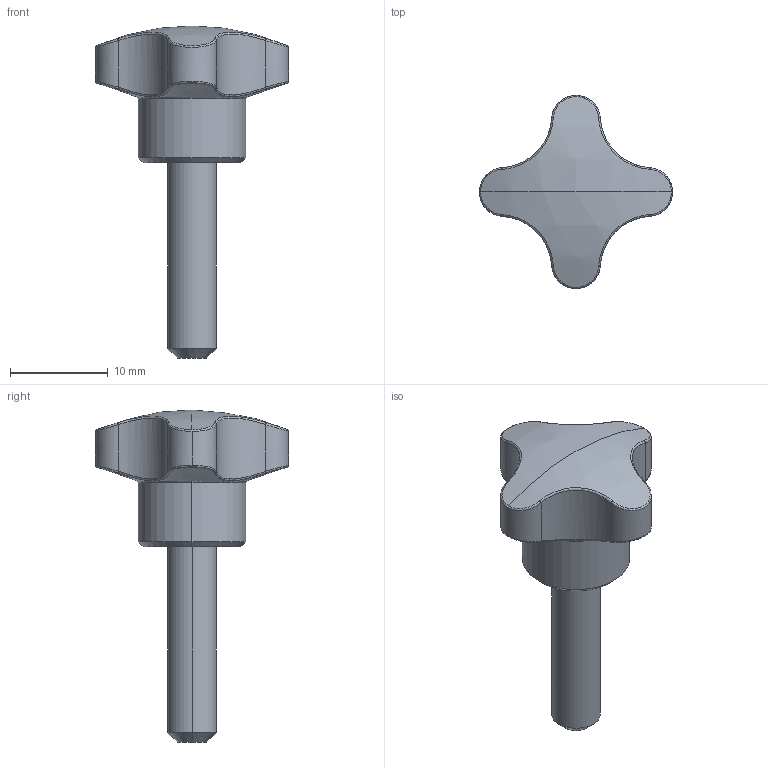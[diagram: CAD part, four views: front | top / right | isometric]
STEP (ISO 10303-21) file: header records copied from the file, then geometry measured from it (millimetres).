
FILE_DESCRIPTION (( 'STEP AP214' ), '1' );
FILE_NAME ('1121 20 522.STEP', '2010-11-26T15:37:10', ( 'Marc' ), ( '' ), 'SwSTEP 2.0', 'SolidWorks 2010', '' );
FILE_SCHEMA (( 'AUTOMOTIVE_DESIGN' ));
Length unit declared in the file: millimetre
Products named in the file (1): 1121 20 522
Bounding box: 19.77 x 19.77 x 34 mm (x, y, z)
Volume: 2411.3 mm3; surface area: 1476.2 mm2
Topology: 2 solids, 2 shells, 63 faces, 137 edges, 80 vertices
Faces by surface type: bspline 24, cylinder 17, cone 9, torus 6, plane 5, sphere 2
Entity records: 6543 total; most frequent: CARTESIAN_POINT 5082, ORIENTED_EDGE 274, DIRECTION 226, EDGE_CURVE 137, AXIS2_PLACEMENT_3D 102, VERTEX_POINT 80, EDGE_LOOP 65, ADVANCED_FACE 63
